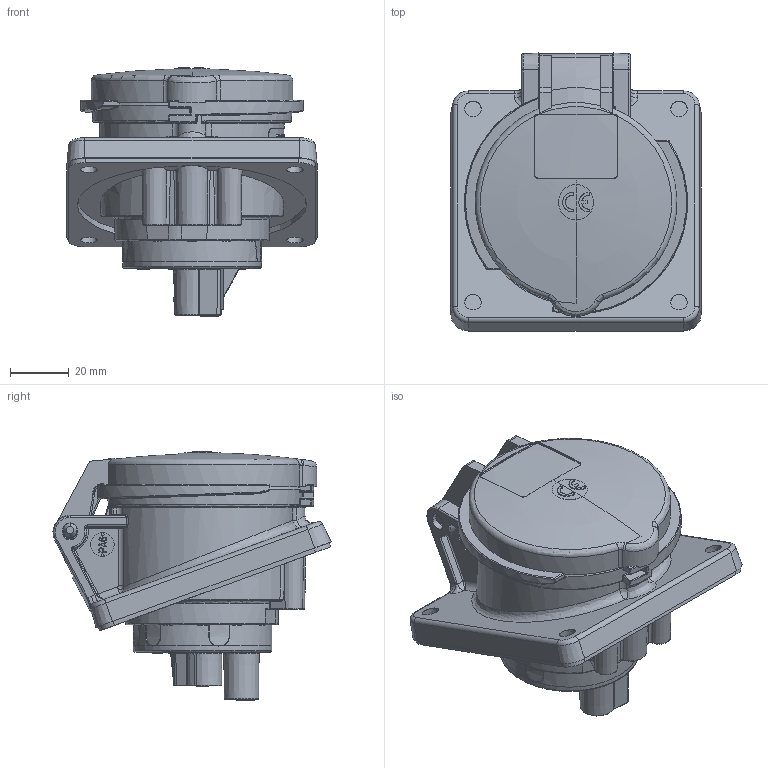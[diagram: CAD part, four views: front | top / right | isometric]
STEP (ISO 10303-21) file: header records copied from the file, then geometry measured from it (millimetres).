
FILE_DESCRIPTION((''),'2;1');
FILE_NAME('3022_SW0001','2017-11-03T',('gisse'),('MENNEKES'),'PRO/ENGINEER BY PARAMETRIC TECHNOLOGY CORPORATION, 2015440','PRO/ENGINEER BY PARAMETRIC TECHNOLOGY CORPORATION, 2015440','');
FILE_SCHEMA(('AUTOMOTIVE_DESIGN { 1 0 10303 214 1 1 1 1 }'));
Length unit declared in the file: millimetre
Products named in the file (1): 3022_SW0001
Bounding box: 85 x 94.49 x 84.35 mm (x, y, z)
Volume: 247533.5 mm3; surface area: 39337.6 mm2
Topology: 1 solids, 1 shells, 1608 faces, 4129 edges, 2572 vertices
Faces by surface type: plane 751, cylinder 324, bspline 293, torus 119, cone 81, sphere 32, extrusion 8
Entity records: 81714 total; most frequent: CARTESIAN_POINT 25976, ORIENTED_EDGE 8242, DIRECTION 6752, EDGE_CURVE 4121, FILL_AREA_STYLE_COLOUR 3102, FILL_AREA_STYLE 3102, SURFACE_STYLE_FILL_AREA 3102, SURFACE_SIDE_STYLE 3102
